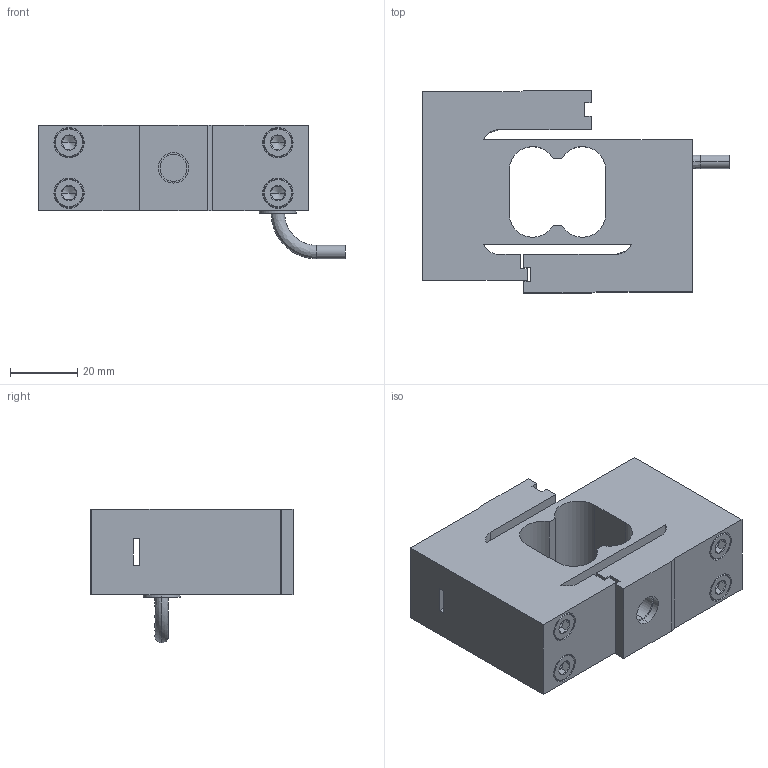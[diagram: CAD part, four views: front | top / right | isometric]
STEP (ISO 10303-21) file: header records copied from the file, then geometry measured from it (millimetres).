
FILE_DESCRIPTION((''),'2;1');
FILE_NAME('S2M_100N','2018-03-14T',('esche'),(''),'CREO PARAMETRIC BY PTC INC, 2017170','CREO PARAMETRIC BY PTC INC, 2017170','');
FILE_SCHEMA(('CONFIG_CONTROL_DESIGN'));
Length unit declared in the file: millimetre
Products named in the file (1): S2M_100N
Bounding box: 91 x 60 x 39.71 mm (x, y, z)
Volume: 82030.1 mm3; surface area: 24479.4 mm2
Topology: 1 solids, 3 shells, 253 faces, 518 edges, 282 vertices
Faces by surface type: bspline 253
Entity records: 7943 total; most frequent: CARTESIAN_POINT 3336, ORIENTED_EDGE 1012, DIRECTION 672, EDGE_CURVE 506, EDGE_LOOP 286, VERTEX_POINT 282, VECTOR 264, LINE 264
